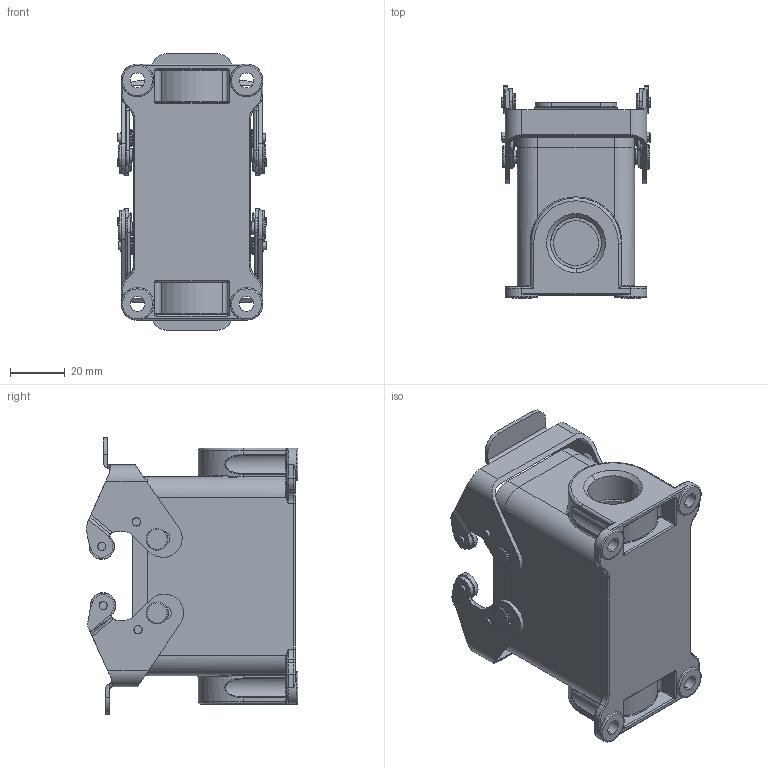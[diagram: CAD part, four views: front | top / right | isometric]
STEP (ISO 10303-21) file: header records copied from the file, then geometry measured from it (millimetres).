
FILE_DESCRIPTION (( 'STEP AP203' ), '1' );
FILE_NAME ('H10B-SGR-M25 19-12-27.STEP', '2019-12-27T09:09:23', ( '' ), ( '' ), 'SwSTEP 2.0', 'SolidWorks 2016', '' );
FILE_SCHEMA (( 'CONFIG_CONTROL_DESIGN' ));
Length unit declared in the file: millimetre
Products named in the file (1): H10B-SGR-M25 19-12-27
Bounding box: 55 x 77.69 x 101.48 mm (x, y, z)
Volume: 80844.1 mm3; surface area: 53683.2 mm2
Topology: 24 solids, 24 shells, 1014 faces, 2362 edges, 1435 vertices
Faces by surface type: cylinder 416, bspline 278, plane 235, cone 85
Entity records: 37040 total; most frequent: CARTESIAN_POINT 15382, ORIENTED_EDGE 4708, DIRECTION 4313, EDGE_CURVE 2354, AXIS2_PLACEMENT_3D 1722, VERTEX_POINT 1435, EDGE_LOOP 1111, ADVANCED_FACE 1014
